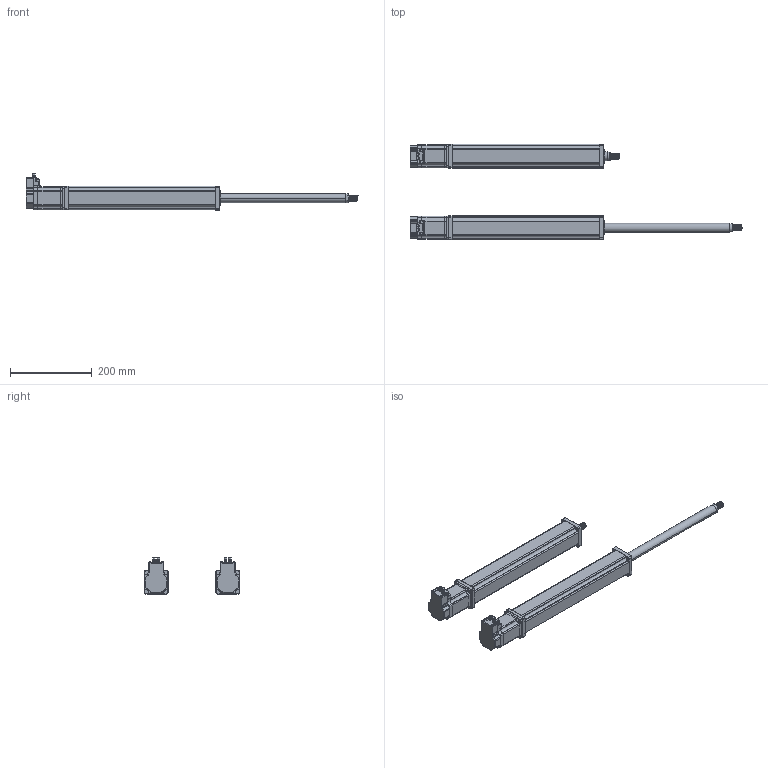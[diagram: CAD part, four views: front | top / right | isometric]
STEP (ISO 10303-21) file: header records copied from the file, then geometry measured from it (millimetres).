
FILE_DESCRIPTION(('STEP AP214'),'1');
FILE_NAME('\Tsurumi-main\3d_dad2\Servo_Motor\tmp0.STEP',' ',(' '),(' '),'XStep 1.0',' ',' ');
FILE_SCHEMA(('automotive_design'));
Length unit declared in the file: millimetre
Bounding box: 812.5 x 233.23 x 88.11 mm (x, y, z)
Volume: 2954490.2 mm3; surface area: 350416.8 mm2
Topology: 48 solids, 48 shells, 1828 faces, 5014 edges, 3286 vertices
Faces by surface type: plane 1250, cylinder 470, bspline 60, torus 36, sphere 8, cone 4
Entity records: 112259 total; most frequent: CARTESIAN_POINT 49708, ORIENTED_EDGE 9996, DIRECTION 9460, EDGE_CURVE 4998, LINE 3900, VECTOR 3900, VERTEX_POINT 3286, AXIS2_PLACEMENT_3D 2780
